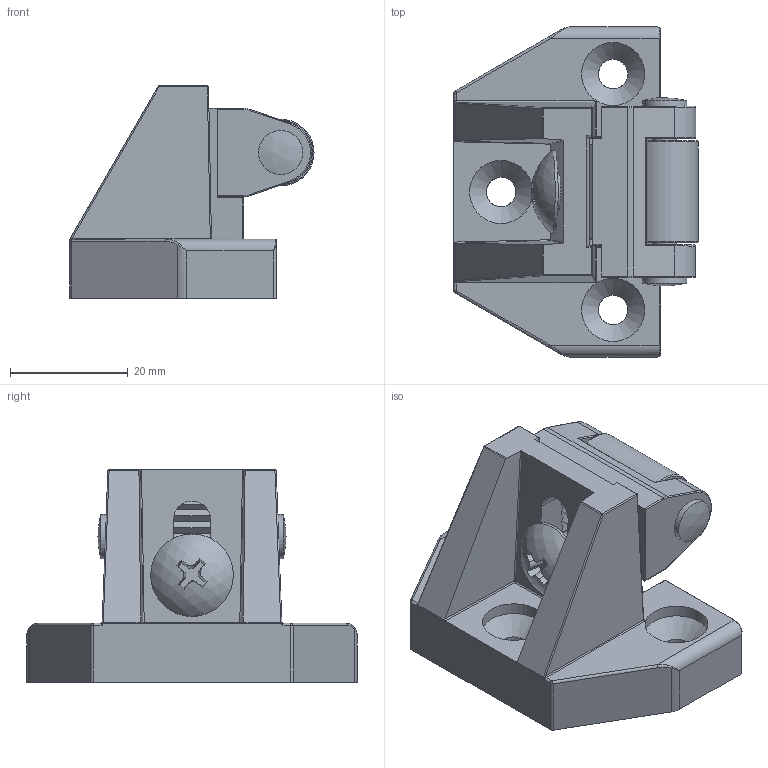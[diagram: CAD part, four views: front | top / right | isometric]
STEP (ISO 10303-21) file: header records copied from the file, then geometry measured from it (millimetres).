
FILE_DESCRIPTION(/* description */ (''),/* implementation_level */ '2;1');
FILE_NAME(/* name */ '\\NAS\db20\D-205-L\DR_D-205-L.stp',/* time_stamp */ '2017-07-24T10:50:14+09:00',/* author */ ('user'),/* organization */ (''),/* preprocessor_version */ 'ST-DEVELOPER v15.6',/* originating_system */ 'Autodesk Inventor 2015',/* authorisation */ '');
FILE_SCHEMA (('AUTOMOTIVE_DESIGN { 1 0 10303 214 3 1 1 }'));
Length unit declared in the file: millimetre
Products named in the file (4): DR_D-205-L-P1; DR_D-205-L-P2; DR_D-205-L-SCREW; DR_D-205-L
Bounding box: 41.4 x 56 x 36 mm (x, y, z)
Volume: 21556.8 mm3; surface area: 17852.7 mm2
Topology: 4 solids, 4 shells, 526 faces, 1293 edges, 771 vertices
Faces by surface type: plane 305, cylinder 131, bspline 38, torus 20, sphere 17, cone 15
Full cylindrical faces by diameter (mm): 4 x1, 5 x3, 6 x1, 7 x1, 7.5 x2, 10.7 x3, 11.3 x1, 14 x1
Entity records: 16019 total; most frequent: CARTESIAN_POINT 3786, ORIENTED_EDGE 2560, DIRECTION 2488, EDGE_CURVE 1260, AXIS2_PLACEMENT_3D 837, LINE 814, VECTOR 814, VERTEX_POINT 768
